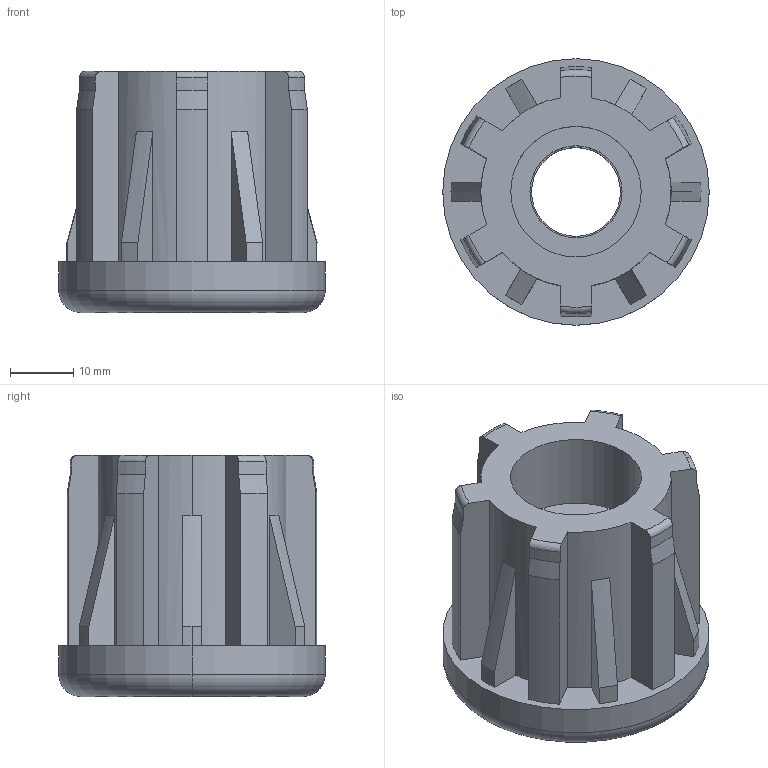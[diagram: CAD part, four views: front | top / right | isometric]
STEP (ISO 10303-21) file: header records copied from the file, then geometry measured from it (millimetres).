
FILE_DESCRIPTION (( 'STEP AP214' ), '1' );
FILE_NAME ('42006442214.STEP', '2020-02-25T17:03:33', ( '' ), ( '' ), 'SwSTEP 2.0', 'SolidWorks 2018', '' );
FILE_SCHEMA (( 'AUTOMOTIVE_DESIGN' ));
Length unit declared in the file: millimetre
Products named in the file (1): 42006442214
Bounding box: 42 x 42 x 38 mm (x, y, z)
Volume: 28857 mm3; surface area: 12328.6 mm2
Topology: 2 solids, 2 shells, 100 faces, 273 edges, 180 vertices
Faces by surface type: cylinder 38, plane 37, cone 17, torus 8
Entity records: 3358 total; most frequent: CARTESIAN_POINT 758, ORIENTED_EDGE 546, DIRECTION 533, EDGE_CURVE 273, AXIS2_PLACEMENT_3D 203, VERTEX_POINT 180, LINE 127, VECTOR 127
